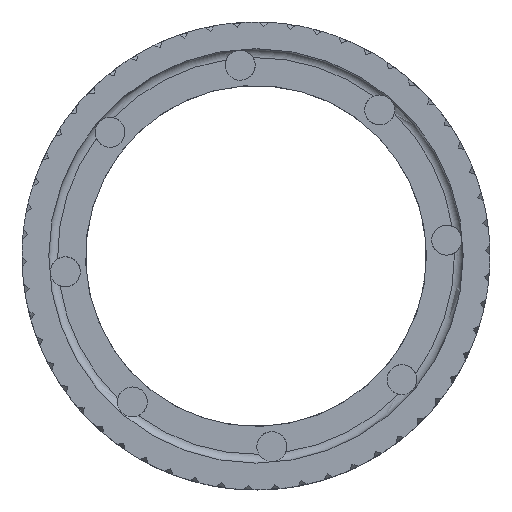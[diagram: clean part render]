
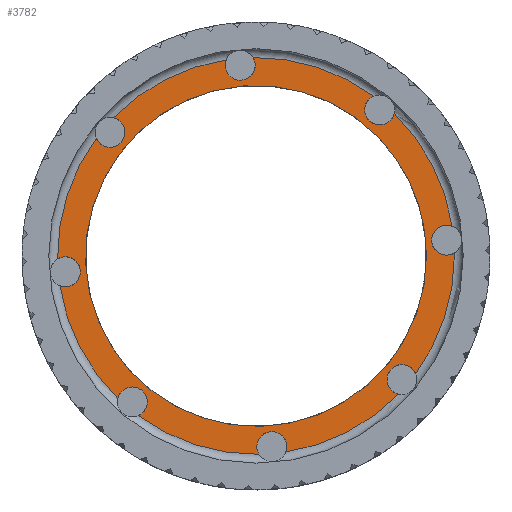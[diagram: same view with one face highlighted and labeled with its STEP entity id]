
A CAD part, top view. The second image highlights one B-rep face of the part: STEP entity #3782.
In plain terms, the highlighted planar face has unit normal (0, 0, 1).
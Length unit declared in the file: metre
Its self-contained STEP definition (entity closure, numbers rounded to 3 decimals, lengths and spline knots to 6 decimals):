
#697=ORIENTED_EDGE('',*,*,#1987,.T.);
#698=ORIENTED_EDGE('',*,*,#1988,.T.);
#699=ORIENTED_EDGE('',*,*,#1989,.T.);
#700=ORIENTED_EDGE('',*,*,#1990,.T.);
#701=ORIENTED_EDGE('',*,*,#1991,.T.);
#702=ORIENTED_EDGE('',*,*,#1992,.T.);
#703=ORIENTED_EDGE('',*,*,#1993,.T.);
#704=ORIENTED_EDGE('',*,*,#1994,.T.);
#705=ORIENTED_EDGE('',*,*,#1995,.T.);
#706=ORIENTED_EDGE('',*,*,#1996,.T.);
#707=ORIENTED_EDGE('',*,*,#1997,.T.);
#708=ORIENTED_EDGE('',*,*,#1998,.T.);
#709=ORIENTED_EDGE('',*,*,#1999,.T.);
#710=ORIENTED_EDGE('',*,*,#2000,.T.);
#711=ORIENTED_EDGE('',*,*,#2001,.T.);
#712=ORIENTED_EDGE('',*,*,#2002,.T.);
#713=ORIENTED_EDGE('',*,*,#2003,.T.);
#1987=EDGE_CURVE('',#2632,#2633,#3067,.F.);
#1988=EDGE_CURVE('',#2633,#2634,#3068,.T.);
#1989=EDGE_CURVE('',#2634,#2635,#3069,.F.);
#1990=EDGE_CURVE('',#2635,#2636,#3070,.T.);
#1991=EDGE_CURVE('',#2636,#2637,#3071,.F.);
#1992=EDGE_CURVE('',#2637,#2638,#3072,.T.);
#1993=EDGE_CURVE('',#2638,#2639,#3073,.F.);
#1994=EDGE_CURVE('',#2639,#2640,#3074,.T.);
#1995=EDGE_CURVE('',#2640,#2641,#3075,.F.);
#1996=EDGE_CURVE('',#2641,#2642,#3076,.T.);
#1997=EDGE_CURVE('',#2642,#2643,#3077,.F.);
#1998=EDGE_CURVE('',#2643,#2644,#3078,.T.);
#1999=EDGE_CURVE('',#2644,#2645,#3079,.F.);
#2000=EDGE_CURVE('',#2645,#2646,#3080,.T.);
#2001=EDGE_CURVE('',#2646,#2647,#3081,.F.);
#2002=EDGE_CURVE('',#2647,#2632,#3082,.T.);
#2003=EDGE_CURVE('',#2648,#2648,#3083,.T.);
#2632=VERTEX_POINT('',#4780);
#2633=VERTEX_POINT('',#4781);
#2634=VERTEX_POINT('',#4783);
#2635=VERTEX_POINT('',#4785);
#2636=VERTEX_POINT('',#4787);
#2637=VERTEX_POINT('',#4789);
#2638=VERTEX_POINT('',#4791);
#2639=VERTEX_POINT('',#4793);
#2640=VERTEX_POINT('',#4795);
#2641=VERTEX_POINT('',#4797);
#2642=VERTEX_POINT('',#4799);
#2643=VERTEX_POINT('',#4801);
#2644=VERTEX_POINT('',#4803);
#2645=VERTEX_POINT('',#4805);
#2646=VERTEX_POINT('',#4807);
#2647=VERTEX_POINT('',#4809);
#2648=VERTEX_POINT('',#4812);
#3067=CIRCLE('',#4024,0.03375);
#3068=CIRCLE('',#4025,0.00255);
#3069=CIRCLE('',#4026,0.03375);
#3070=CIRCLE('',#4027,0.00255);
#3071=CIRCLE('',#4028,0.03375);
#3072=CIRCLE('',#4029,0.00255);
#3073=CIRCLE('',#4030,0.03375);
#3074=CIRCLE('',#4031,0.00255);
#3075=CIRCLE('',#4032,0.03375);
#3076=CIRCLE('',#4033,0.00255);
#3077=CIRCLE('',#4034,0.03375);
#3078=CIRCLE('',#4035,0.00255);
#3079=CIRCLE('',#4036,0.03375);
#3080=CIRCLE('',#4037,0.00255);
#3081=CIRCLE('',#4038,0.03375);
#3082=CIRCLE('',#4039,0.00255);
#3083=CIRCLE('',#4040,0.029);
#3208=EDGE_LOOP('',(#697,#698,#699,#700,#701,#702,#703,#704,#705,#706,#707,
#708,#709,#710,#711,#712));
#3209=EDGE_LOOP('',(#713));
#3454=FACE_BOUND('',#3208,.T.);
#3455=FACE_BOUND('',#3209,.T.);
#3700=PLANE('',#4023);
#3782=ADVANCED_FACE('',(#3454,#3455),#3700,.F.);
#4023=AXIS2_PLACEMENT_3D('',#4778,#4264,#4265);
#4024=AXIS2_PLACEMENT_3D('',#4779,#4266,#4267);
#4025=AXIS2_PLACEMENT_3D('',#4782,#4268,#4269);
#4026=AXIS2_PLACEMENT_3D('',#4784,#4270,#4271);
#4027=AXIS2_PLACEMENT_3D('',#4786,#4272,#4273);
#4028=AXIS2_PLACEMENT_3D('',#4788,#4274,#4275);
#4029=AXIS2_PLACEMENT_3D('',#4790,#4276,#4277);
#4030=AXIS2_PLACEMENT_3D('',#4792,#4278,#4279);
#4031=AXIS2_PLACEMENT_3D('',#4794,#4280,#4281);
#4032=AXIS2_PLACEMENT_3D('',#4796,#4282,#4283);
#4033=AXIS2_PLACEMENT_3D('',#4798,#4284,#4285);
#4034=AXIS2_PLACEMENT_3D('',#4800,#4286,#4287);
#4035=AXIS2_PLACEMENT_3D('',#4802,#4288,#4289);
#4036=AXIS2_PLACEMENT_3D('',#4804,#4290,#4291);
#4037=AXIS2_PLACEMENT_3D('',#4806,#4292,#4293);
#4038=AXIS2_PLACEMENT_3D('',#4808,#4294,#4295);
#4039=AXIS2_PLACEMENT_3D('',#4810,#4296,#4297);
#4040=AXIS2_PLACEMENT_3D('',#4811,#4298,#4299);
#4264=DIRECTION('',(0.,0.,-1.));
#4265=DIRECTION('',(0.819,0.574,0.));
#4266=DIRECTION('',(0.,0.,-1.));
#4267=DIRECTION('',(1.,0.,0.));
#4268=DIRECTION('',(0.,0.,-1.));
#4269=DIRECTION('',(1.,0.,0.));
#4270=DIRECTION('',(0.,0.,-1.));
#4271=DIRECTION('',(1.,0.,0.));
#4272=DIRECTION('',(0.,0.,-1.));
#4273=DIRECTION('',(1.,0.,0.));
#4274=DIRECTION('',(0.,0.,-1.));
#4275=DIRECTION('',(1.,0.,0.));
#4276=DIRECTION('',(0.,0.,-1.));
#4277=DIRECTION('',(1.,0.,0.));
#4278=DIRECTION('',(0.,0.,-1.));
#4279=DIRECTION('',(1.,0.,0.));
#4280=DIRECTION('',(0.,0.,-1.));
#4281=DIRECTION('',(1.,0.,0.));
#4282=DIRECTION('',(0.,0.,-1.));
#4283=DIRECTION('',(1.,0.,0.));
#4284=DIRECTION('',(0.,0.,-1.));
#4285=DIRECTION('',(1.,0.,0.));
#4286=DIRECTION('',(0.,0.,-1.));
#4287=DIRECTION('',(1.,0.,0.));
#4288=DIRECTION('',(0.,0.,-1.));
#4289=DIRECTION('',(1.,0.,0.));
#4290=DIRECTION('',(0.,0.,-1.));
#4291=DIRECTION('',(1.,0.,0.));
#4292=DIRECTION('',(0.,0.,-1.));
#4293=DIRECTION('',(1.,0.,0.));
#4294=DIRECTION('',(0.,0.,-1.));
#4295=DIRECTION('',(1.,0.,0.));
#4296=DIRECTION('',(0.,0.,-1.));
#4297=DIRECTION('',(1.,0.,0.));
#4298=DIRECTION('',(0.,0.,-1.));
#4299=DIRECTION('',(1.,0.,0.));
#4778=CARTESIAN_POINT('',(0.,0.,0.0768));
#4779=CARTESIAN_POINT('',(0.,0.,0.0768));
#4780=CARTESIAN_POINT('',(-0.027177,0.020012,0.0768));
#4781=CARTESIAN_POINT('',(-0.033746,-0.000503,0.0768));
#4782=CARTESIAN_POINT('',(-0.032438,-0.002692,0.0768));
#4783=CARTESIAN_POINT('',(-0.033368,-0.005067,0.0768));
#4784=CARTESIAN_POINT('',(0.,0.,0.0768));
#4785=CARTESIAN_POINT('',(-0.023507,-0.024218,0.0768));
#4786=CARTESIAN_POINT('',(-0.021034,-0.024841,0.0768));
#4787=CARTESIAN_POINT('',(-0.020012,-0.027177,0.0768));
#4788=CARTESIAN_POINT('',(0.,0.,0.0768));
#4789=CARTESIAN_POINT('',(0.000503,-0.033746,0.0768));
#4790=CARTESIAN_POINT('',(0.002692,-0.032438,0.0768));
#4791=CARTESIAN_POINT('',(0.005067,-0.033368,0.0768));
#4792=CARTESIAN_POINT('',(0.,0.,0.0768));
#4793=CARTESIAN_POINT('',(0.024218,-0.023507,0.0768));
#4794=CARTESIAN_POINT('',(0.024841,-0.021034,0.0768));
#4795=CARTESIAN_POINT('',(0.027177,-0.020012,0.0768));
#4796=CARTESIAN_POINT('',(0.,0.,0.0768));
#4797=CARTESIAN_POINT('',(0.033746,0.000503,0.0768));
#4798=CARTESIAN_POINT('',(0.032438,0.002692,0.0768));
#4799=CARTESIAN_POINT('',(0.033368,0.005067,0.0768));
#4800=CARTESIAN_POINT('',(0.,0.,0.0768));
#4801=CARTESIAN_POINT('',(0.023507,0.024218,0.0768));
#4802=CARTESIAN_POINT('',(0.021034,0.024841,0.0768));
#4803=CARTESIAN_POINT('',(0.020012,0.027177,0.0768));
#4804=CARTESIAN_POINT('',(0.,0.,0.0768));
#4805=CARTESIAN_POINT('',(-0.000503,0.033746,0.0768));
#4806=CARTESIAN_POINT('',(-0.002692,0.032438,0.0768));
#4807=CARTESIAN_POINT('',(-0.005067,0.033368,0.0768));
#4808=CARTESIAN_POINT('',(0.,0.,0.0768));
#4809=CARTESIAN_POINT('',(-0.024218,0.023507,0.0768));
#4810=CARTESIAN_POINT('',(-0.024841,0.021034,0.0768));
#4811=CARTESIAN_POINT('',(0.,0.,0.0768));
#4812=CARTESIAN_POINT('',(0.029,0.,0.0768));
